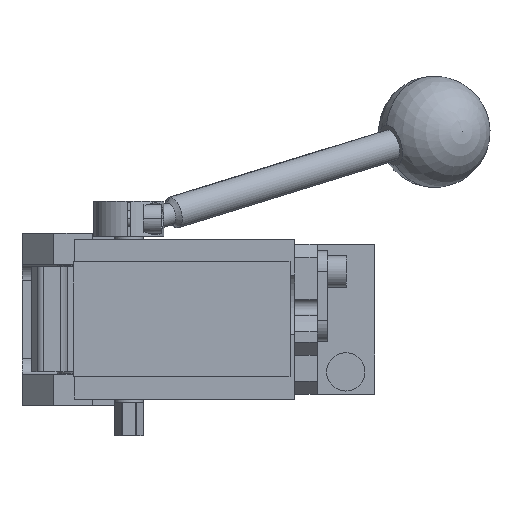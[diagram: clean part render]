
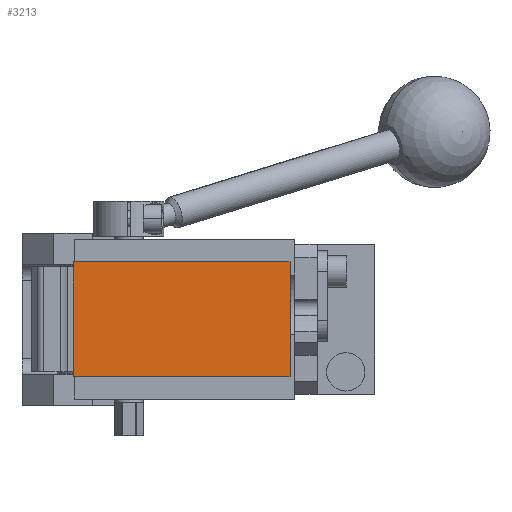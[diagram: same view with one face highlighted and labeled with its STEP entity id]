
A CAD part, front view. The second image highlights one B-rep face of the part: STEP entity #3213.
In plain terms, the highlighted planar face has unit normal (0, -1, 0).
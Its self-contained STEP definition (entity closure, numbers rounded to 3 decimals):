
#508 = EDGE_CURVE ( 'NONE', #4173, #9394, #15546, .T. ) ;
#1742 = DIRECTION ( 'NONE',  ( -1., 0., 0. ) ) ;
#1961 = PLANE ( 'NONE',  #15410 ) ;
#3213 = ADVANCED_FACE ( 'NONE', ( #14073 ), #1961, .T. ) ;
#4173 = VERTEX_POINT ( 'NONE', #5370 ) ;
#4287 = DIRECTION ( 'NONE',  ( 0., 0., -1. ) ) ;
#5370 = CARTESIAN_POINT ( 'NONE',  ( -6., -233., -18. ) ) ;
#5911 = CARTESIAN_POINT ( 'NONE',  ( -6., -233., -18. ) ) ;
#5976 = VERTEX_POINT ( 'NONE', #9356 ) ;
#6436 = LINE ( 'NONE', #7465, #10571 ) ;
#6487 = EDGE_LOOP ( 'NONE', ( #12064, #7051, #8823, #7127 ) ) ;
#6520 = LINE ( 'NONE', #11357, #6703 ) ;
#6577 = EDGE_CURVE ( 'NONE', #9215, #5976, #6520, .T. ) ;
#6588 = DIRECTION ( 'NONE',  ( 0., -1., 0. ) ) ;
#6703 = VECTOR ( 'NONE', #1742, 1000. ) ;
#7051 = ORIENTED_EDGE ( 'NONE', *, *, #508, .T. ) ;
#7127 = ORIENTED_EDGE ( 'NONE', *, *, #6577, .T. ) ;
#7465 = CARTESIAN_POINT ( 'NONE',  ( 62., -233., 18. ) ) ;
#7860 = CARTESIAN_POINT ( 'NONE',  ( 62., -233., 18. ) ) ;
#8823 = ORIENTED_EDGE ( 'NONE', *, *, #14155, .T. ) ;
#9215 = VERTEX_POINT ( 'NONE', #7860 ) ;
#9356 = CARTESIAN_POINT ( 'NONE',  ( -6., -233., 18. ) ) ;
#9394 = VERTEX_POINT ( 'NONE', #15658 ) ;
#9890 = EDGE_CURVE ( 'NONE', #5976, #4173, #13937, .T. ) ;
#10166 = CARTESIAN_POINT ( 'NONE',  ( -6., -233., 18. ) ) ;
#10220 = DIRECTION ( 'NONE',  ( 0., 0., -1. ) ) ;
#10571 = VECTOR ( 'NONE', #11110, 1000. ) ;
#10737 = DIRECTION ( 'NONE',  ( 1., 0., 0. ) ) ;
#11025 = VECTOR ( 'NONE', #10737, 1000. ) ;
#11110 = DIRECTION ( 'NONE',  ( 0., 0., 1. ) ) ;
#11348 = CARTESIAN_POINT ( 'NONE',  ( 0., -233., 0. ) ) ;
#11357 = CARTESIAN_POINT ( 'NONE',  ( -6., -233., 18. ) ) ;
#12064 = ORIENTED_EDGE ( 'NONE', *, *, #9890, .T. ) ;
#13367 = VECTOR ( 'NONE', #4287, 1000. ) ;
#13937 = LINE ( 'NONE', #10166, #13367 ) ;
#14073 = FACE_OUTER_BOUND ( 'NONE', #6487, .T. ) ;
#14155 = EDGE_CURVE ( 'NONE', #9394, #9215, #6436, .T. ) ;
#15410 = AXIS2_PLACEMENT_3D ( 'NONE', #11348, #6588, #10220 ) ;
#15546 = LINE ( 'NONE', #5911, #11025 ) ;
#15658 = CARTESIAN_POINT ( 'NONE',  ( 62., -233., -18. ) ) ;
